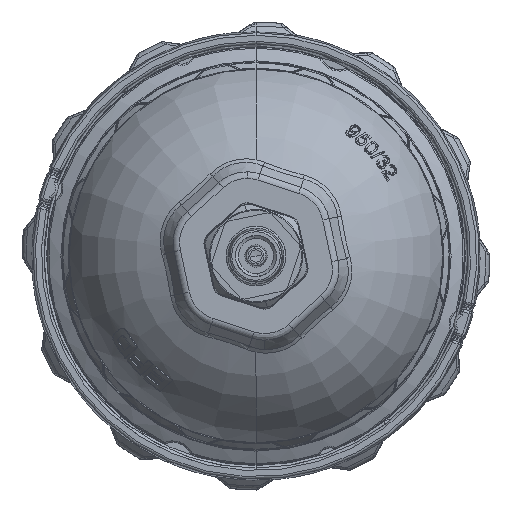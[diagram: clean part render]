
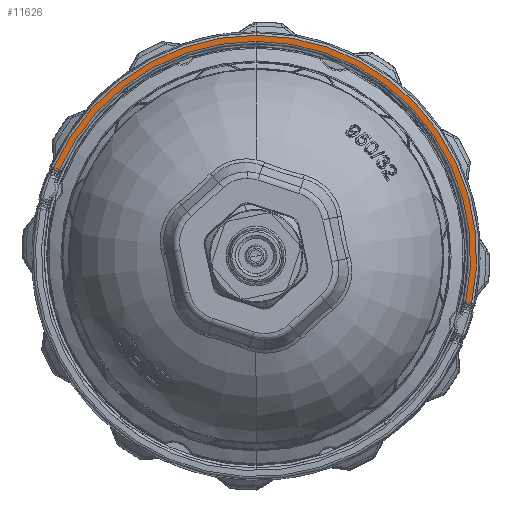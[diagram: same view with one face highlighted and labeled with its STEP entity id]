
A CAD part, front view. The second image highlights one B-rep face of the part: STEP entity #11626.
In plain terms, the highlighted planar face has unit normal (0, -1, 0).
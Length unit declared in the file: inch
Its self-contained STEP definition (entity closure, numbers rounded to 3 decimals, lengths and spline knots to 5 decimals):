
#1907 = CIRCLE ( 'NONE', #16687, 1.73069 ) ;
#2390 = CARTESIAN_POINT ( 'NONE',  ( 0., 12.124, 1.683 ) ) ;
#4057 = CARTESIAN_POINT ( 'NONE',  ( -1.54265, 12.124, 0.67744 ) ) ;
#10898 = CARTESIAN_POINT ( 'NONE',  ( 1.64446, 12.124, -0.35812 ) ) ;
#11626 = ADVANCED_FACE ( 'NONE', ( #110038 ), #20064, .F. ) ;
#14010 = CARTESIAN_POINT ( 'NONE',  ( 1.69174, 12.124, -0.37348 ) ) ;
#16383 = EDGE_CURVE ( 'NONE', #26645, #20556, #86484, .T. ) ;
#16687 = AXIS2_PLACEMENT_3D ( 'NONE', #152229, #114140, #78591 ) ;
#17546 = CARTESIAN_POINT ( 'NONE',  ( 0., 12.124, 0. ) ) ;
#18064 = DIRECTION ( 'NONE',  ( 0., 1., 0. ) ) ;
#20064 = PLANE ( 'NONE',  #44341 ) ;
#20556 = VERTEX_POINT ( 'NONE', #142559 ) ;
#26645 = VERTEX_POINT ( 'NONE', #42793 ) ;
#26936 = CARTESIAN_POINT ( 'NONE',  ( 0., 12.124, 0. ) ) ;
#29376 = CIRCLE ( 'NONE', #136672, 1.683 ) ;
#35033 = DIRECTION ( 'NONE',  ( 0., 1., 0. ) ) ;
#35582 = CARTESIAN_POINT ( 'NONE',  ( 0., 12.124, 0. ) ) ;
#36554 = ORIENTED_EDGE ( 'NONE', *, *, #63176, .T. ) ;
#42793 = CARTESIAN_POINT ( 'NONE',  ( 1.69003, 12.124, -0.37293 ) ) ;
#44341 = AXIS2_PLACEMENT_3D ( 'NONE', #35582, #35033, #158548 ) ;
#51694 = DIRECTION ( 'NONE',  ( 0., 1., 0. ) ) ;
#53909 = VERTEX_POINT ( 'NONE', #57535 ) ;
#54376 = VECTOR ( 'NONE', #112766, 39.37008 ) ;
#54554 = CARTESIAN_POINT ( 'NONE',  ( 0., 12.124, 0. ) ) ;
#56548 = VERTEX_POINT ( 'NONE', #10898 ) ;
#57535 = CARTESIAN_POINT ( 'NONE',  ( -1.58646, 12.124, 0.69167 ) ) ;
#63176 = EDGE_CURVE ( 'NONE', #91011, #156738, #29376, .T. ) ;
#65071 = DIRECTION ( 'NONE',  ( 0., 0., 1. ) ) ;
#78591 = DIRECTION ( 'NONE',  ( 0., 0., 1. ) ) ;
#85826 = ORIENTED_EDGE ( 'NONE', *, *, #129312, .T. ) ;
#86484 = CIRCLE ( 'NONE', #148180, 1.73069 ) ;
#86963 = LINE ( 'NONE', #14010, #54376 ) ;
#91011 = VERTEX_POINT ( 'NONE', #109853 ) ;
#92589 = DIRECTION ( 'NONE',  ( 0., 0., 1. ) ) ;
#96269 = EDGE_CURVE ( 'NONE', #156738, #56548, #114129, .T. ) ;
#99225 = EDGE_CURVE ( 'NONE', #56548, #26645, #86963, .T. ) ;
#102537 = ORIENTED_EDGE ( 'NONE', *, *, #96269, .T. ) ;
#109853 = CARTESIAN_POINT ( 'NONE',  ( -1.54089, 12.124, 0.67686 ) ) ;
#110038 = FACE_OUTER_BOUND ( 'NONE', #150392, .T. ) ;
#112766 = DIRECTION ( 'NONE',  ( 0.951, 0., -0.309 ) ) ;
#113145 = ORIENTED_EDGE ( 'NONE', *, *, #16383, .T. ) ;
#114129 = CIRCLE ( 'NONE', #134748, 1.683 ) ;
#114140 = DIRECTION ( 'NONE',  ( 0., -1., 0. ) ) ;
#115785 = ORIENTED_EDGE ( 'NONE', *, *, #149138, .T. ) ;
#116280 = VECTOR ( 'NONE', #138324, 39.37008 ) ;
#116796 = DIRECTION ( 'NONE',  ( 0., -1., 0. ) ) ;
#129312 = EDGE_CURVE ( 'NONE', #20556, #53909, #1907, .T. ) ;
#134748 = AXIS2_PLACEMENT_3D ( 'NONE', #17546, #18064, #139952 ) ;
#136672 = AXIS2_PLACEMENT_3D ( 'NONE', #26936, #51694, #65071 ) ;
#138324 = DIRECTION ( 'NONE',  ( 0.951, 0., -0.309 ) ) ;
#139952 = DIRECTION ( 'NONE',  ( 0., 0., 1. ) ) ;
#142559 = CARTESIAN_POINT ( 'NONE',  ( 0., 12.124, 1.73069 ) ) ;
#148180 = AXIS2_PLACEMENT_3D ( 'NONE', #54554, #116796, #92589 ) ;
#148954 = LINE ( 'NONE', #4057, #116280 ) ;
#149138 = EDGE_CURVE ( 'NONE', #53909, #91011, #148954, .T. ) ;
#150392 = EDGE_LOOP ( 'NONE', ( #36554, #102537, #158995, #113145, #85826, #115785 ) ) ;
#152229 = CARTESIAN_POINT ( 'NONE',  ( 0., 12.124, 0. ) ) ;
#156738 = VERTEX_POINT ( 'NONE', #2390 ) ;
#158548 = DIRECTION ( 'NONE',  ( 0., 0., 1. ) ) ;
#158995 = ORIENTED_EDGE ( 'NONE', *, *, #99225, .T. ) ;
